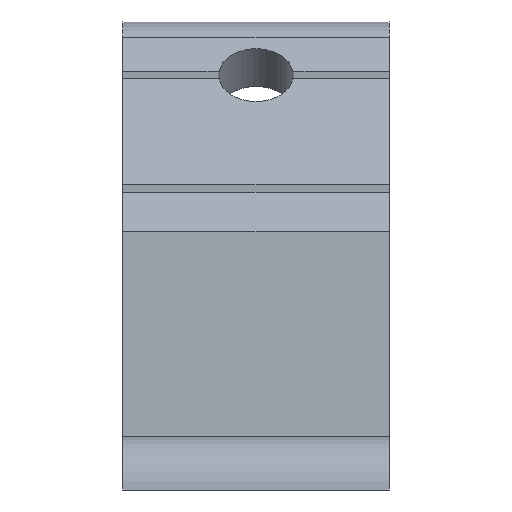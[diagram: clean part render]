
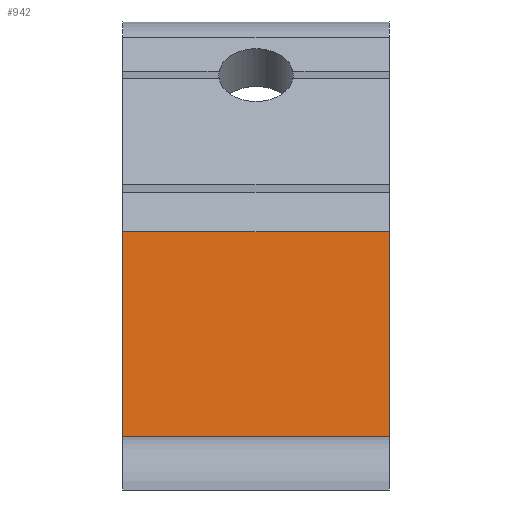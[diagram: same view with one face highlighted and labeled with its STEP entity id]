
A CAD part, left-side view. The second image highlights one B-rep face of the part: STEP entity #942.
In plain terms, the highlighted planar face has unit normal (-0.383, 0, 0.924).
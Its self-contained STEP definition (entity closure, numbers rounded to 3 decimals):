
#78=LINE('',#1424,#188);
#105=LINE('',#1481,#215);
#123=LINE('',#1515,#233);
#130=LINE('',#1530,#240);
#188=VECTOR('',#1133,1000.);
#215=VECTOR('',#1176,1000.);
#233=VECTOR('',#1198,1000.);
#240=VECTOR('',#1217,1000.);
#420=ORIENTED_EDGE('',*,*,#583,.T.);
#421=ORIENTED_EDGE('',*,*,#642,.F.);
#422=ORIENTED_EDGE('',*,*,#614,.F.);
#423=ORIENTED_EDGE('',*,*,#633,.T.);
#583=EDGE_CURVE('',#720,#719,#78,.T.);
#614=EDGE_CURVE('',#741,#742,#105,.T.);
#633=EDGE_CURVE('',#741,#720,#123,.T.);
#642=EDGE_CURVE('',#742,#719,#130,.T.);
#719=VERTEX_POINT('',#1423);
#720=VERTEX_POINT('',#1425);
#741=VERTEX_POINT('',#1480);
#742=VERTEX_POINT('',#1482);
#802=EDGE_LOOP('',(#420,#421,#422,#423));
#852=FACE_BOUND('',#802,.T.);
#900=PLANE('',#1021);
#942=ADVANCED_FACE('',(#852),#900,.F.);
#1021=AXIS2_PLACEMENT_3D('',#1551,#1242,#1243);
#1133=DIRECTION('',(-0.924,0.,-0.383));
#1176=DIRECTION('',(-0.924,0.,-0.383));
#1198=DIRECTION('',(0.,1.,0.));
#1217=DIRECTION('',(0.,1.,0.));
#1242=DIRECTION('',(0.383,0.,-0.924));
#1243=DIRECTION('',(-0.924,0.,-0.383));
#1423=CARTESIAN_POINT('',(-29.254,12.5,5.));
#1424=CARTESIAN_POINT('',(17.15,12.5,24.221));
#1425=CARTESIAN_POINT('',(17.15,12.5,24.221));
#1480=CARTESIAN_POINT('',(17.15,-12.5,24.221));
#1481=CARTESIAN_POINT('',(17.15,-12.5,24.221));
#1482=CARTESIAN_POINT('',(-29.254,-12.5,5.));
#1515=CARTESIAN_POINT('',(17.15,-12.5,24.221));
#1530=CARTESIAN_POINT('',(-29.254,-12.5,5.));
#1551=CARTESIAN_POINT('',(17.15,-12.5,24.221));
